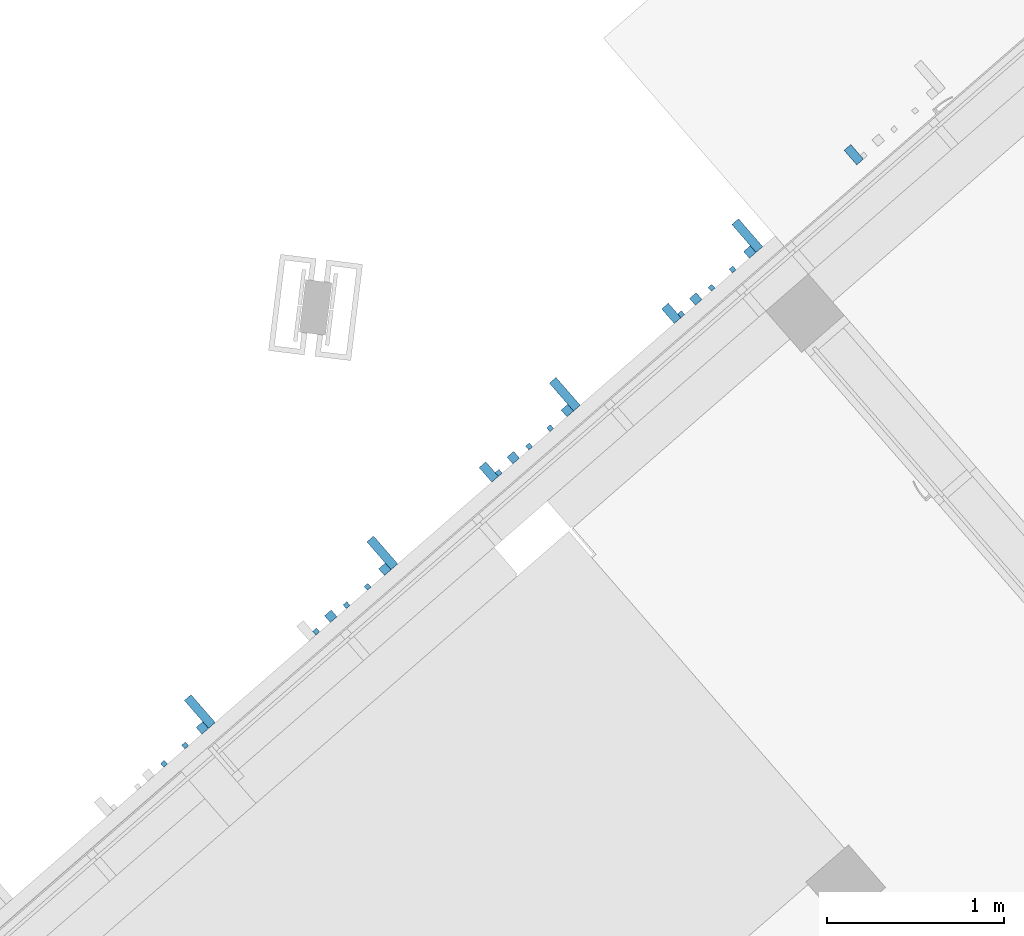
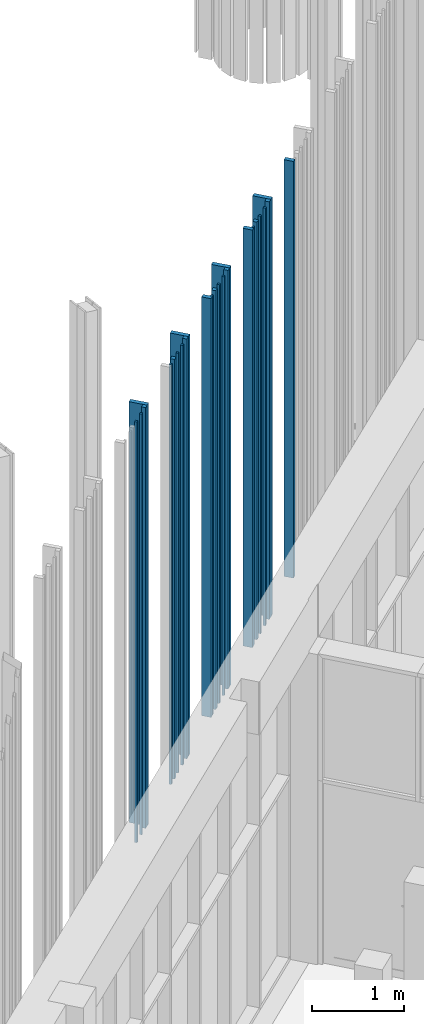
# One storey, part 220 of 390: 25 walls.
"""IFC2X3 building model written with IfcOpenShell, lengths in millimetres."""

from ifc_helpers import new_model, entity, si_unit, converted_unit, derived_unit, money_unit, direction, frame, origin_with_axes, place, context, subcontext, project, spatial, faceted_brep, material, type_object, element, save


model = new_model("IFC2X3")

# Units and contexts
model_context = context("Model", 3, precision=1e-05, world=origin_with_axes(), true_north=direction((0.0, 1.0)))
body_context = subcontext(model_context, "Body", "Model", "MODEL_VIEW")
ifc_project = project(units=[si_unit("LENGTHUNIT", "METRE", prefix="MILLI"), si_unit("AREAUNIT", "SQUARE_METRE"), si_unit("VOLUMEUNIT", "CUBIC_METRE"), converted_unit("PLANEANGLEUNIT", "DEGREE", entity("IfcPlaneAngleMeasure", 0.0174532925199), si_unit("PLANEANGLEUNIT", "RADIAN"), dimensions=[0, 0, 0, 0, 0, 0, 0]), si_unit("SOLIDANGLEUNIT", "STERADIAN"), money_unit("EUR"), converted_unit("TIMEUNIT", "Year", entity("IfcTimeMeasure", 31556926.0), si_unit("TIMEUNIT", "SECOND"), dimensions=[0, 0, 1, 0, 0, 0, 0]), si_unit("MASSUNIT", "GRAM", prefix="KILO"), si_unit("THERMODYNAMICTEMPERATUREUNIT", "DEGREE_CELSIUS"), si_unit("LUMINOUSINTENSITYUNIT", "LUMEN"), si_unit("ENERGYUNIT", "JOULE", prefix="MEGA"), derived_unit("THERMALCONDUCTANCEUNIT", [(si_unit("POWERUNIT", "WATT"), 1), (si_unit("LENGTHUNIT", "METRE"), -1), (si_unit("THERMODYNAMICTEMPERATUREUNIT", "KELVIN"), -1)]), derived_unit("SPECIFICHEATCAPACITYUNIT", [(si_unit("ENERGYUNIT", "JOULE"), 1), (si_unit("MASSUNIT", "GRAM", prefix="KILO"), -1), (si_unit("THERMODYNAMICTEMPERATUREUNIT", "KELVIN"), -1)]), derived_unit("MASSDENSITYUNIT", [(si_unit("MASSUNIT", "GRAM", prefix="KILO"), 1), (si_unit("VOLUMEUNIT", "CUBIC_METRE"), -1)])], contexts=[model_context])

# Site, building, storey
site_placement = place(None, origin_with_axes())
site = spatial("IfcSite", under=ifc_project, at=site_placement, Name="Site", CompositionType="ELEMENT")
building_placement = place(site_placement, origin_with_axes())
building = spatial("IfcBuilding", under=site, at=building_placement, Name="Building", CompositionType="ELEMENT")
storey_placement = place(building_placement, origin_with_axes())
storey = spatial("IfcBuildingStorey", under=building, at=storey_placement, Name="1 korrus", CompositionType="ELEMENT", Elevation=0.0)

# Walls
ifc_material = material(Name="Site specified")
wall_type = type_object("IfcWallType", Name="Puitfassaadi ribistik", PredefinedType="NOTDEFINED")
wall_1_placement = place(storey_placement, frame((130183.718012, 83203.3953333, 4315.74909448), z_axis=(0.0, 0.0, 1.0), x_axis=(0.754709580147, 0.656059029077, 0.0)))
element("IfcWall", 1, at=wall_1_placement, inside=storey, type_object=wall_type, material=ifc_material, Name="Site specified", context=body_context, shape_type="Brep", body=[
    faceted_brep([(25.0, 25.0, 5549.25090552), (25.0, 25.0, 0.0), (-25.0, 25.0, 0.0), (-25.0, 25.0, 5549.25090552), (25.0, -25.0, 5549.25090552), (25.0, -25.0, 0.0), (-25.0, -25.0, 0.0), (-25.0, -25.0, 5549.25090552)], [[[0, 1, 2, 3]], [[4, 5, 1, 0]], [[2, 1, 5, 6]], [[3, 2, 6, 7]], [[4, 0, 3, 7]], [[7, 6, 5, 4]]]),
])
wall_2_placement = place(storey_placement, frame((130273.198005, 83266.6039621, 4315.74909448), z_axis=(0.0, 0.0, 1.0), x_axis=(0.754709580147, 0.656059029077, 0.0)))
element("IfcWall", 2, at=wall_2_placement, inside=storey, type_object=wall_type, material=ifc_material, Name="Site specified", context=body_context, shape_type="Brep", body=[
    faceted_brep([(14.0, 14.0, 5549.25090552), (14.0, 14.0, 0.0), (-14.0, 14.0, 0.0), (-14.0, 14.0, 5549.25090552), (14.0, -14.0, 5549.25090552), (14.0, -14.0, 0.0), (-14.0, -14.0, 0.0), (-14.0, -14.0, 5549.25090552)], [[[0, 1, 2, 3]], [[4, 5, 1, 0]], [[2, 1, 5, 6]], [[3, 2, 6, 7]], [[4, 0, 3, 7]], [[7, 6, 5, 4]]]),
])
wall_3_placement = place(storey_placement, frame((129456.177976, 82570.9544293, 4302.40607568), z_axis=(0.0, 0.0, 1.0), x_axis=(0.754709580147, 0.656059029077, 0.0)))
element("IfcWall", 3, at=wall_3_placement, inside=storey, type_object=wall_type, material=ifc_material, Name="Site specified", context=body_context, shape_type="Brep", body=[
    faceted_brep([(25.0, 25.0, 5562.59392432), (25.0, 25.0, 0.0), (-25.0, 25.0, 0.0), (-25.0, 25.0, 5562.59392432), (25.0, -25.0, 5562.59392432), (25.0, -25.0, 0.0), (-25.0, -25.0, 0.0), (-25.0, -25.0, 5562.59392432)], [[[0, 1, 2, 3]], [[4, 5, 1, 0]], [[2, 1, 5, 6]], [[3, 2, 6, 7]], [[4, 0, 3, 7]], [[7, 6, 5, 4]]]),
])
wall_4_placement = place(storey_placement, frame((129239.24588, 82367.8030922, 4302.40607568), z_axis=(0.0, 0.0, 1.0), x_axis=(0.754709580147, 0.656059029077, 0.0)))
element("IfcWall", 4, at=wall_4_placement, inside=storey, type_object=wall_type, material=ifc_material, Name="Site specified", context=body_context, shape_type="Brep", body=[
    faceted_brep([(14.0, 14.0, 5562.59392432), (14.0, 14.0, 0.0), (-14.0, 14.0, 0.0), (-14.0, 14.0, 5562.59392432), (14.0, -14.0, 5562.59392432), (14.0, -14.0, 0.0), (-14.0, -14.0, 0.0), (-14.0, -14.0, 5562.59392432)], [[[0, 1, 2, 3]], [[4, 5, 1, 0]], [[2, 1, 5, 6]], [[3, 2, 6, 7]], [[4, 0, 3, 7]], [[7, 6, 5, 4]]]),
])
wall_5_placement = place(storey_placement, frame((129441.756763, 82663.7567923, 4302.40607568), z_axis=(0.0, 0.0, 1.0), x_axis=(0.754709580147, 0.656059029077, 0.0)))
element("IfcWall", 5, at=wall_5_placement, inside=storey, type_object=wall_type, material=ifc_material, Name="Site specified", context=body_context, shape_type="Brep", body=[
    faceted_brep([(25.0, 104.5, 5562.59392432), (25.0, 104.5, 0.0), (-25.0, 104.5, 0.0), (-25.0, 104.5, 5562.59392432), (25.0, -104.5, 5562.59392432), (25.0, -104.5, 0.0), (-25.0, -104.5, 0.0), (-25.0, -104.5, 5562.59392432)], [[[0, 1, 2, 3]], [[4, 5, 1, 0]], [[2, 1, 5, 6]], [[3, 2, 6, 7]], [[4, 0, 3, 7]], [[7, 6, 5, 4]]]),
])
wall_6_placement = place(storey_placement, frame((130475.708887, 83562.5576622, 4315.74909448), z_axis=(0.0, 0.0, 1.0), x_axis=(0.754709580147, 0.656059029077, 0.0)))
element("IfcWall", 6, at=wall_6_placement, inside=storey, type_object=wall_type, material=ifc_material, Name="Site specified", context=body_context, shape_type="Brep", body=[
    faceted_brep([(25.0, 104.5, 5549.25090552), (25.0, 104.5, 0.0), (-25.0, 104.5, 0.0), (-25.0, 104.5, 5549.25090552), (25.0, -104.5, 5549.25090552), (25.0, -104.5, 0.0), (-25.0, -104.5, 0.0), (-25.0, -104.5, 5549.25090552)], [[[0, 1, 2, 3]], [[4, 5, 1, 0]], [[2, 1, 5, 6]], [[3, 2, 6, 7]], [[4, 0, 3, 7]], [[7, 6, 5, 4]]]),
])
wall_7_placement = place(storey_placement, frame((131426.394244, 84269.0621585, 4329.08592476), z_axis=(0.0, 0.0, 1.0), x_axis=(0.754709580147, 0.656059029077, 0.0)))
element("IfcWall", 7, at=wall_7_placement, inside=storey, type_object=wall_type, material=ifc_material, Name="Site specified", context=body_context, shape_type="Brep", body=[
    faceted_brep([(14.0, 14.0, 5535.91407524), (14.0, 14.0, 0.0), (-14.0, 14.0, 0.0), (-14.0, 14.0, 5535.91407524), (14.0, -14.0, 5535.91407524), (14.0, -14.0, 0.0), (-14.0, -14.0, 0.0), (-14.0, -14.0, 5535.91407524)], [[[0, 1, 2, 3]], [[4, 5, 1, 0]], [[2, 1, 5, 6]], [[3, 2, 6, 7]], [[4, 0, 3, 7]], [[7, 6, 5, 4]]]),
])
wall_8_placement = place(storey_placement, frame((131217.670137, 84102.1962031, 4329.08592476), z_axis=(0.0, 0.0, 1.0), x_axis=(0.754709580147, 0.656059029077, 0.0)))
element("IfcWall", 8, at=wall_8_placement, inside=storey, type_object=wall_type, material=ifc_material, Name="Site specified", context=body_context, shape_type="Brep", body=[
    faceted_brep([(25.0, 25.0, 5535.91407524), (25.0, 25.0, 0.0), (-25.0, 25.0, 0.0), (-25.0, 25.0, 5535.91407524), (25.0, -25.0, 5535.91407524), (25.0, -25.0, 0.0), (-25.0, -25.0, 0.0), (-25.0, -25.0, 5535.91407524)], [[[0, 1, 2, 3]], [[4, 5, 1, 0]], [[2, 1, 5, 6]], [[3, 2, 6, 7]], [[4, 0, 3, 7]], [[7, 6, 5, 4]]]),
])
wall_9_placement = place(storey_placement, frame((131509.661012, 84461.358532, 4329.08592476), z_axis=(0.0, 0.0, 1.0), x_axis=(0.754709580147, 0.656059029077, 0.0)))
element("IfcWall", 9, at=wall_9_placement, inside=storey, type_object=wall_type, material=ifc_material, Name="Site specified", context=body_context, shape_type="Brep", body=[
    faceted_brep([(25.0, 104.5, 5535.91407524), (25.0, 104.5, 0.0), (-25.0, 104.5, 0.0), (-25.0, 104.5, 5535.91407524), (25.0, -104.5, 5535.91407524), (25.0, -104.5, 0.0), (-25.0, -104.5, 0.0), (-25.0, -104.5, 5535.91407524)], [[[0, 1, 2, 3]], [[4, 5, 1, 0]], [[2, 1, 5, 6]], [[3, 2, 6, 7]], [[4, 0, 3, 7]], [[7, 6, 5, 4]]]),
])
wall_10_placement = place(storey_placement, frame((131524.082226, 84368.5561689, 4329.08592476), z_axis=(0.0, 0.0, 1.0), x_axis=(0.754709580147, 0.656059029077, 0.0)))
element("IfcWall", 10, at=wall_10_placement, inside=storey, type_object=wall_type, material=ifc_material, Name="Site specified", context=body_context, shape_type="Brep", body=[
    faceted_brep([(25.0, 25.0, 5535.91407524), (25.0, 25.0, 0.0), (-25.0, 25.0, 0.0), (-25.0, 25.0, 5535.91407524), (25.0, -25.0, 5535.91407524), (25.0, -25.0, 0.0), (-25.0, -25.0, 0.0), (-25.0, -25.0, 5535.91407524)], [[[0, 1, 2, 3]], [[4, 5, 1, 0]], [[2, 1, 5, 6]], [[3, 2, 6, 7]], [[4, 0, 3, 7]], [[7, 6, 5, 4]]]),
])
for number, where, z_axis, x_axis, name in (
    (11, (131307.15013, 84165.4048319, 4329.08592476), (0.0, 0.0, 1.0), (0.754709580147, 0.656059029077, 0.0), "Site specified"),
    (12, (131135.076346, 84015.8233733, 4329.08592476), (0.0, 0.0, 1.0), (0.754709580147, 0.656059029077, 0.0), "Site specified"),
):
    element("IfcWall", number, at=place(storey_placement, frame(where, z_axis=z_axis, x_axis=x_axis)), inside=storey, type_object=wall_type, material=ifc_material, Name=name, context=body_context, shape_type="Brep", body=[
        faceted_brep([(14.0, 14.0, 5535.91407524), (14.0, 14.0, 0.0), (-14.0, 14.0, 0.0), (-14.0, 14.0, 5535.91407524), (14.0, -14.0, 5535.91407524), (14.0, -14.0, 0.0), (-14.0, -14.0, 0.0), (-14.0, -14.0, 5535.91407524)], [[[0, 1, 2, 3]], [[4, 5, 1, 0]], [[2, 1, 5, 6]], [[3, 2, 6, 7]], [[4, 0, 3, 7]], [[7, 6, 5, 4]]]),
    ])
wall_11_placement = place(storey_placement, frame((131079.072282, 84020.8028091, 4329.08592476), z_axis=(0.0, 0.0, 1.0), x_axis=(0.754709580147, 0.656059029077, 0.0)))
element("IfcWall", 13, at=wall_11_placement, inside=storey, type_object=wall_type, material=ifc_material, Name="Site specified", context=body_context, shape_type="Brep", body=[
    faceted_brep([(25.0, 54.5, 5535.91407524), (25.0, 54.5, 0.0), (-25.0, 54.5, 0.0), (-25.0, 54.5, 5535.91407524), (25.0, -54.5, 5535.91407524), (25.0, -54.5, 0.0), (-25.0, -54.5, 0.0), (-25.0, -54.5, 5535.91407524)], [[[0, 1, 2, 3]], [[4, 5, 1, 0]], [[2, 1, 5, 6]], [[3, 2, 6, 7]], [[4, 0, 3, 7]], [[7, 6, 5, 4]]]),
])
for number, where, z_axis, x_axis, name in (
    (14, (132460.346369, 85167.8630283, 4343.9740175), (0.0, 0.0, 1.0), (0.754709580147, 0.656059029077, 0.0), "Site specified"),
    (15, (132341.102255, 85064.2057017, 4343.9740175), (0.0, 0.0, 1.0), (0.754709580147, 0.656059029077, 0.0), "Site specified"),
):
    element("IfcWall", number, at=place(storey_placement, frame(where, z_axis=z_axis, x_axis=x_axis)), inside=storey, type_object=wall_type, material=ifc_material, Name=name, context=body_context, shape_type="Brep", body=[
        faceted_brep([(14.0, 14.0, 5521.0259825), (14.0, 14.0, 0.0), (-14.0, 14.0, 0.0), (-14.0, 14.0, 5521.0259825), (14.0, -14.0, 5521.0259825), (14.0, -14.0, 0.0), (-14.0, -14.0, 0.0), (-14.0, -14.0, 5521.0259825)], [[[0, 1, 2, 3]], [[4, 5, 1, 0]], [[2, 1, 5, 6]], [[3, 2, 6, 7]], [[4, 0, 3, 7]], [[7, 6, 5, 4]]]),
    ])
for number, where, z_axis, x_axis, name in (
    (16, (132251.622261, 85000.9970729, 4343.9740175), (0.0, 0.0, 1.0), (0.754709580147, 0.656059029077, 0.0), "Site specified"),
    (17, (132558.034351, 85267.3570387, 4343.9740175), (0.0, 0.0, 1.0), (0.754709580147, 0.656059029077, 0.0), "Site specified"),
):
    element("IfcWall", number, at=place(storey_placement, frame(where, z_axis=z_axis, x_axis=x_axis)), inside=storey, type_object=wall_type, material=ifc_material, Name=name, context=body_context, shape_type="Brep", body=[
        faceted_brep([(25.0, 25.0, 5521.0259825), (25.0, 25.0, 0.0), (-25.0, 25.0, 0.0), (-25.0, 25.0, 5521.0259825), (25.0, -25.0, 5521.0259825), (25.0, -25.0, 0.0), (-25.0, -25.0, 0.0), (-25.0, -25.0, 5521.0259825)], [[[0, 1, 2, 3]], [[4, 5, 1, 0]], [[2, 1, 5, 6]], [[3, 2, 6, 7]], [[4, 0, 3, 7]], [[7, 6, 5, 4]]]),
    ])
wall_12_placement = place(storey_placement, frame((132169.028471, 84914.6242431, 4343.9740175), z_axis=(0.0, 0.0, 1.0), x_axis=(0.754709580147, 0.656059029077, 0.0)))
element("IfcWall", 18, at=wall_12_placement, inside=storey, type_object=wall_type, material=ifc_material, Name="Site specified", context=body_context, shape_type="Brep", body=[
    faceted_brep([(14.0, 14.0, 5521.0259825), (14.0, 14.0, 0.0), (-14.0, 14.0, 0.0), (-14.0, 14.0, 5521.0259825), (14.0, -14.0, 5521.0259825), (14.0, -14.0, 0.0), (-14.0, -14.0, 0.0), (-14.0, -14.0, 5521.0259825)], [[[0, 1, 2, 3]], [[4, 5, 1, 0]], [[2, 1, 5, 6]], [[3, 2, 6, 7]], [[4, 0, 3, 7]], [[7, 6, 5, 4]]]),
])
wall_13_placement = place(storey_placement, frame((132113.024406, 84919.6036789, 4343.9740175), z_axis=(0.0, 0.0, 1.0), x_axis=(0.754709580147, 0.656059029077, 0.0)))
element("IfcWall", 19, at=wall_13_placement, inside=storey, type_object=wall_type, material=ifc_material, Name="Site specified", context=body_context, shape_type="Brep", body=[
    faceted_brep([(25.0, 54.5, 5521.0259825), (25.0, 54.5, 0.0), (-25.0, 54.5, 0.0), (-25.0, 54.5, 5521.0259825), (25.0, -54.5, 5521.0259825), (25.0, -54.5, 0.0), (-25.0, -54.5, 0.0), (-25.0, -54.5, 5521.0259825)], [[[0, 1, 2, 3]], [[4, 5, 1, 0]], [[2, 1, 5, 6]], [[3, 2, 6, 7]], [[4, 0, 3, 7]], [[7, 6, 5, 4]]]),
])
wall_14_placement = place(storey_placement, frame((132543.613137, 85360.1594018, 4343.9740175), z_axis=(0.0, 0.0, 1.0), x_axis=(0.754709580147, 0.656059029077, 0.0)))
element("IfcWall", 20, at=wall_14_placement, inside=storey, type_object=wall_type, material=ifc_material, Name="Site specified", context=body_context, shape_type="Brep", body=[
    faceted_brep([(25.0, 104.5, 5521.0259825), (25.0, 104.5, 0.0), (-25.0, 104.5, 0.0), (-25.0, 104.5, 5521.0259825), (25.0, -104.5, 5521.0259825), (25.0, -104.5, 0.0), (-25.0, -104.5, 0.0), (-25.0, -104.5, 5521.0259825)], [[[0, 1, 2, 3]], [[4, 5, 1, 0]], [[2, 1, 5, 6]], [[3, 2, 6, 7]], [[4, 0, 3, 7]], [[7, 6, 5, 4]]]),
])
wall_15_placement = place(storey_placement, frame((133146.976531, 85818.4045488, 4355.77285819), z_axis=(0.0, 0.0, 1.0), x_axis=(0.754709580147, 0.656059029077, 0.0)))
element("IfcWall", 21, at=wall_15_placement, inside=storey, type_object=wall_type, material=ifc_material, Name="Site specified", context=body_context, shape_type="Brep", body=[
    faceted_brep([(25.0, 54.5, 5509.22714181), (25.0, 54.5, 0.0), (-25.0, 54.5, 0.0), (-25.0, 54.5, 5509.22714181), (25.0, -54.5, 5509.22714181), (25.0, -54.5, 0.0), (-25.0, -54.5, 0.0), (-25.0, -54.5, 5509.22714181)], [[[0, 1, 2, 3]], [[4, 5, 1, 0]], [[2, 1, 5, 6]], [[3, 2, 6, 7]], [[4, 0, 3, 7]], [[7, 6, 5, 4]]]),
])
wall_16_placement = place(storey_placement, frame((130101.124221, 83117.0225034, 4315.74909448), z_axis=(0.0, 0.0, 1.0), x_axis=(0.754709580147, 0.656059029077, 0.0)))
element("IfcWall", 22, at=wall_16_placement, inside=storey, type_object=wall_type, material=ifc_material, Name="Site specified", context=body_context, shape_type="Brep", body=[
    faceted_brep([(14.0, 14.0, 5549.25090552), (14.0, 14.0, 0.0), (-14.0, 14.0, 0.0), (-14.0, 14.0, 5549.25090552), (14.0, -14.0, 5549.25090552), (14.0, -14.0, 0.0), (-14.0, -14.0, 0.0), (-14.0, -14.0, 5549.25090552)], [[[0, 1, 2, 3]], [[4, 5, 1, 0]], [[2, 1, 5, 6]], [[3, 2, 6, 7]], [[4, 0, 3, 7]], [[7, 6, 5, 4]]]),
])
wall_17_placement = place(storey_placement, frame((130490.130101, 83469.7552991, 4315.74909448), z_axis=(0.0, 0.0, 1.0), x_axis=(0.754709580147, 0.656059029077, 0.0)))
element("IfcWall", 23, at=wall_17_placement, inside=storey, type_object=wall_type, material=ifc_material, Name="Site specified", context=body_context, shape_type="Brep", body=[
    faceted_brep([(25.0, 25.0, 5549.25090552), (25.0, 25.0, 0.0), (-25.0, 25.0, 0.0), (-25.0, 25.0, 5549.25090552), (25.0, -25.0, 5549.25090552), (25.0, -25.0, 0.0), (-25.0, -25.0, 0.0), (-25.0, -25.0, 5549.25090552)], [[[0, 1, 2, 3]], [[4, 5, 1, 0]], [[2, 1, 5, 6]], [[3, 2, 6, 7]], [[4, 0, 3, 7]], [[7, 6, 5, 4]]]),
])
wall_18_placement = place(storey_placement, frame((130392.442119, 83370.2612887, 4315.74909448), z_axis=(0.0, 0.0, 1.0), x_axis=(0.754709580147, 0.656059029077, 0.0)))
element("IfcWall", 24, at=wall_18_placement, inside=storey, type_object=wall_type, material=ifc_material, Name="Site specified", context=body_context, shape_type="Brep", body=[
    faceted_brep([(14.0, 14.0, 5549.25090552), (14.0, 14.0, 0.0), (-14.0, 14.0, 0.0), (-14.0, 14.0, 5549.25090552), (14.0, -14.0, 5549.25090552), (14.0, -14.0, 0.0), (-14.0, -14.0, 0.0), (-14.0, -14.0, 5549.25090552)], [[[0, 1, 2, 3]], [[4, 5, 1, 0]], [[2, 1, 5, 6]], [[3, 2, 6, 7]], [[4, 0, 3, 7]], [[7, 6, 5, 4]]]),
])
wall_19_placement = place(storey_placement, frame((129358.489994, 82471.4604188, 4302.40607568), z_axis=(0.0, 0.0, 1.0), x_axis=(0.754709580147, 0.656059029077, 0.0)))
element("IfcWall", 25, at=wall_19_placement, inside=storey, type_object=wall_type, material=ifc_material, Name="Site specified", context=body_context, shape_type="Brep", body=[
    faceted_brep([(14.0, 14.0, 5562.59392432), (14.0, 14.0, 0.0), (-14.0, 14.0, 0.0), (-14.0, 14.0, 5562.59392432), (14.0, -14.0, 5562.59392432), (14.0, -14.0, 0.0), (-14.0, -14.0, 0.0), (-14.0, -14.0, 5562.59392432)], [[[0, 1, 2, 3]], [[4, 5, 1, 0]], [[2, 1, 5, 6]], [[3, 2, 6, 7]], [[4, 0, 3, 7]], [[7, 6, 5, 4]]]),
])

save(model, "model.ifc")
